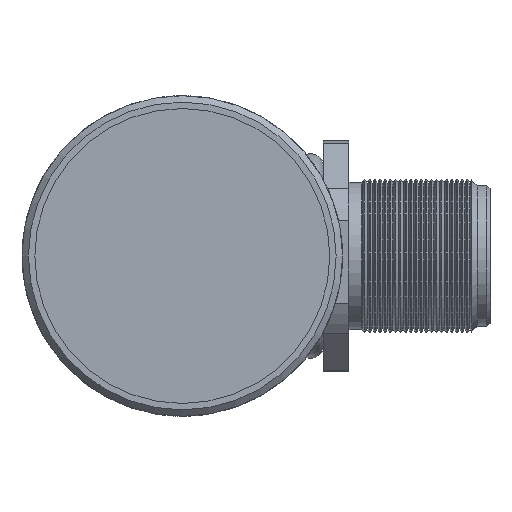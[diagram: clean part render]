
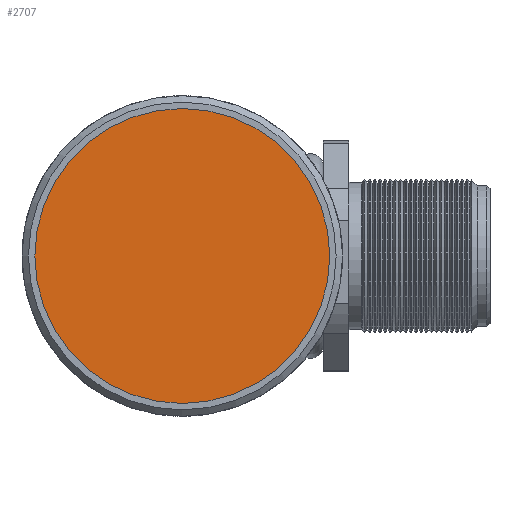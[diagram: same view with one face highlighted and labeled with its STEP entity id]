
A CAD part, left-side view. The second image highlights one B-rep face of the part: STEP entity #2707.
In plain terms, the highlighted planar face has unit normal (-1, 0, 0).
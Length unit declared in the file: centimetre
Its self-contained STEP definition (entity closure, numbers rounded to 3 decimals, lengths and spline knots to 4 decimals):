
#2668=CARTESIAN_POINT('',(-4.4,0.,1.15));
#2669=VERTEX_POINT('',#2668);
#2676=CARTESIAN_POINT('',(-4.4,0.,-1.15));
#2677=VERTEX_POINT('',#2676);
#2678=CARTESIAN_POINT('',(-4.4,0.,0.));
#2679=DIRECTION('',(-1.,-0.,-0.));
#2680=DIRECTION('',(0.,0.,-1.));
#2681=AXIS2_PLACEMENT_3D('',#2678,#2679,#2680);
#2682=CIRCLE('',#2681,1.15);
#2683=EDGE_CURVE('',#2677,#2669,#2682,.T.);
#2685=CARTESIAN_POINT('',(-4.4,0.,0.));
#2686=DIRECTION('',(-1.,-0.,-0.));
#2687=DIRECTION('',(0.,0.,-1.));
#2688=AXIS2_PLACEMENT_3D('',#2685,#2686,#2687);
#2689=CIRCLE('',#2688,1.15);
#2690=EDGE_CURVE('',#2669,#2677,#2689,.T.);
#2698=CARTESIAN_POINT('',(-4.4,0.,0.));
#2699=DIRECTION('',(1.,0.,0.));
#2700=DIRECTION('',(0.,0.,-1.));
#2701=AXIS2_PLACEMENT_3D('',#2698,#2699,#2700);
#2702=PLANE('',#2701);
#2703=ORIENTED_EDGE('',*,*,#2683,.T.);
#2704=ORIENTED_EDGE('',*,*,#2690,.T.);
#2705=EDGE_LOOP('',(#2703,#2704));
#2706=FACE_BOUND('',#2705,.T.);
#2707=ADVANCED_FACE('',(#2706),#2702,.F.);
